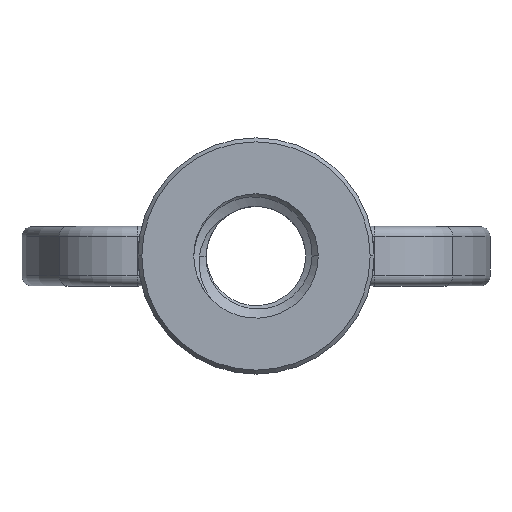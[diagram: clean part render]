
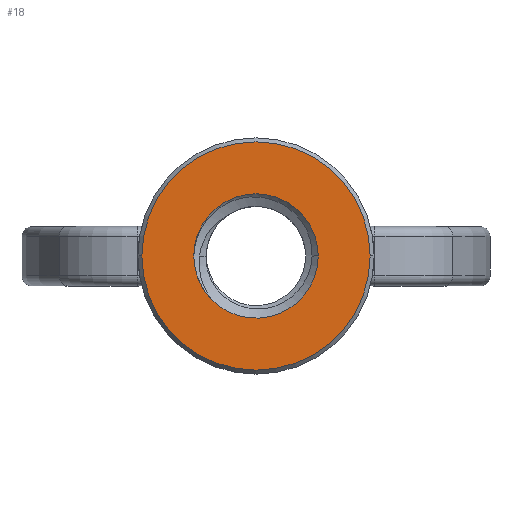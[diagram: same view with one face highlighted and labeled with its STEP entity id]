
A CAD part, top view. The second image highlights one B-rep face of the part: STEP entity #18.
In plain terms, the highlighted planar face has unit normal (0, 0, 1).
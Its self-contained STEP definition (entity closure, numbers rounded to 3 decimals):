
#2 = ORIENTED_EDGE ( 'NONE', *, *, #1883, .F. ) ;
#18 = ADVANCED_FACE ( 'NONE', ( #840, #933 ), #1796, .T. ) ;
#82 = CARTESIAN_POINT ( 'NONE',  ( 0., 0., 0. ) ) ;
#93 = ORIENTED_EDGE ( 'NONE', *, *, #1791, .F. ) ;
#106 = AXIS2_PLACEMENT_3D ( 'NONE', #2636, #1214, #2876 ) ;
#204 = ORIENTED_EDGE ( 'NONE', *, *, #2174, .T. ) ;
#209 = AXIS2_PLACEMENT_3D ( 'NONE', #796, #2465, #1046 ) ;
#282 = DIRECTION ( 'NONE',  ( 0., 0., 1. ) ) ;
#362 = CARTESIAN_POINT ( 'NONE',  ( -4., 0., 0. ) ) ;
#415 = EDGE_LOOP ( 'NONE', ( #204, #1974 ) ) ;
#507 = ORIENTED_EDGE ( 'NONE', *, *, #1801, .F. ) ;
#588 = CARTESIAN_POINT ( 'NONE',  ( 0., 0., 0. ) ) ;
#740 = CARTESIAN_POINT ( 'NONE',  ( 4., 0., 0. ) ) ;
#744 = AXIS2_PLACEMENT_3D ( 'NONE', #1749, #282, #1986 ) ;
#781 = CARTESIAN_POINT ( 'NONE',  ( -7.343, 0., 0. ) ) ;
#790 = CARTESIAN_POINT ( 'NONE',  ( 7.343, 0., 0. ) ) ;
#796 = CARTESIAN_POINT ( 'NONE',  ( 0., 0., 0. ) ) ;
#808 = AXIS2_PLACEMENT_3D ( 'NONE', #2873, #1449, #3101 ) ;
#834 = DIRECTION ( 'NONE',  ( 1., 0., 0. ) ) ;
#840 = FACE_OUTER_BOUND ( 'NONE', #415, .T. ) ;
#873 = AXIS2_PLACEMENT_3D ( 'NONE', #588, #2247, #834 ) ;
#933 = FACE_BOUND ( 'NONE', #1371, .T. ) ;
#959 = VERTEX_POINT ( 'NONE', #781 ) ;
#1046 = DIRECTION ( 'NONE',  ( 1., 0., 0. ) ) ;
#1214 = DIRECTION ( 'NONE',  ( 0., 0., 1. ) ) ;
#1282 = CIRCLE ( 'NONE', #744, 4. ) ;
#1371 = EDGE_LOOP ( 'NONE', ( #507, #2, #93 ) ) ;
#1449 = DIRECTION ( 'NONE',  ( 0., 0., 1. ) ) ;
#1637 = EDGE_CURVE ( 'NONE', #2420, #959, #2697, .T. ) ;
#1659 = VERTEX_POINT ( 'NONE', #740 ) ;
#1697 = VERTEX_POINT ( 'NONE', #2649 ) ;
#1704 = AXIS2_PLACEMENT_3D ( 'NONE', #82, #2977, #2929 ) ;
#1749 = CARTESIAN_POINT ( 'NONE',  ( 0., 0., 0. ) ) ;
#1791 = EDGE_CURVE ( 'NONE', #1659, #1957, #1282, .T. ) ;
#1796 = PLANE ( 'NONE',  #1704 ) ;
#1801 = EDGE_CURVE ( 'NONE', #1697, #1659, #2475, .T. ) ;
#1883 = EDGE_CURVE ( 'NONE', #1957, #1697, #3035, .T. ) ;
#1957 = VERTEX_POINT ( 'NONE', #362 ) ;
#1974 = ORIENTED_EDGE ( 'NONE', *, *, #1637, .T. ) ;
#1986 = DIRECTION ( 'NONE',  ( 1., 0., 0. ) ) ;
#2174 = EDGE_CURVE ( 'NONE', #959, #2420, #2633, .T. ) ;
#2247 = DIRECTION ( 'NONE',  ( 0., 0., 1. ) ) ;
#2420 = VERTEX_POINT ( 'NONE', #790 ) ;
#2465 = DIRECTION ( 'NONE',  ( 0., 0., 1. ) ) ;
#2475 = CIRCLE ( 'NONE', #209, 4. ) ;
#2633 = CIRCLE ( 'NONE', #106, 7.343 ) ;
#2636 = CARTESIAN_POINT ( 'NONE',  ( 0., 0., 0. ) ) ;
#2649 = CARTESIAN_POINT ( 'NONE',  ( -2.854, -2.803, 0. ) ) ;
#2697 = CIRCLE ( 'NONE', #808, 7.343 ) ;
#2873 = CARTESIAN_POINT ( 'NONE',  ( 0., 0., 0. ) ) ;
#2876 = DIRECTION ( 'NONE',  ( 1., 0., 0. ) ) ;
#2929 = DIRECTION ( 'NONE',  ( 1., 0., 0. ) ) ;
#2977 = DIRECTION ( 'NONE',  ( 0., 0., 1. ) ) ;
#3035 = CIRCLE ( 'NONE', #873, 4. ) ;
#3101 = DIRECTION ( 'NONE',  ( 1., 0., 0. ) ) ;
